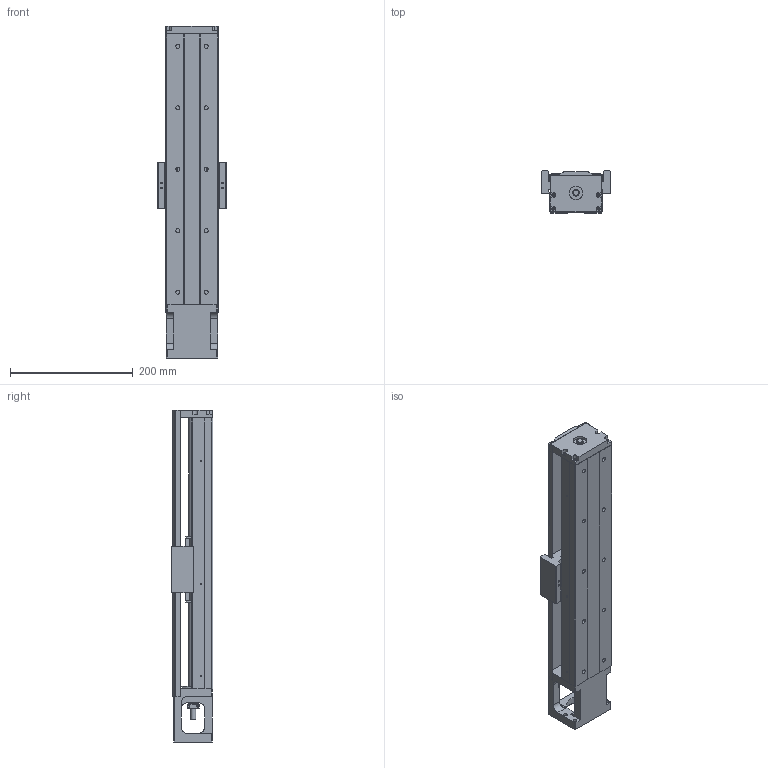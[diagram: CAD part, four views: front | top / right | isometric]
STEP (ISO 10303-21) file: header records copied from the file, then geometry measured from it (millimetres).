
FILE_DESCRIPTION(/* description */ (''),/* implementation_level */ '2;1');
FILE_NAME(/* name */ '46L-440C.stp',/* time_stamp */ '2016-12-20T13:56:30+08:00',/* author */ (''),/* organization */ (''),/* preprocessor_version */ 'ST-DEVELOPER v11',/* originating_system */ 'SIEMENS UGS NX 6.0',/* authorisation */ '');
FILE_SCHEMA (('AUTOMOTIVE_DESIGN { 1 0 10303 214 1 1 1 1 }'));
Length unit declared in the file: millimetre
Products named in the file (1): model4
Bounding box: 112 x 68 x 540 mm (x, y, z)
Volume: 1556383.1 mm3; surface area: 384189.3 mm2
Topology: 7 solids, 15 shells, 708 faces, 1852 edges, 1218 vertices
Faces by surface type: plane 341, cylinder 255, cone 57, bspline 47, torus 8
Full cylindrical faces by diameter (mm): 2.11 x4, 2.15 x6, 2.42 x8, 2.5 x4, 3 x6, 3.2 x4, 3.3 x12, 3.4 x8, 4 x4, 4.2 x4, 4.5 x8, 5 x14, 6 x8, 6.35 x2, 6.6 x10, 8 x1, 9.6 x1, 10 x3, 11 x10, 12 x1, 14.95 x2, 15 x1, 16 x2, 22 x3, 27.5 x1, 44 x1, 50 x1
Entity records: 32201 total; most frequent: CARTESIAN_POINT 13166, ORIENTED_EDGE 3200, DIRECTION 3142, EDGE_CURVE 1600, AXIS2_PLACEMENT_3D 1150, VERTEX_POINT 1144, EDGE_LOOP 996, LINE 842
